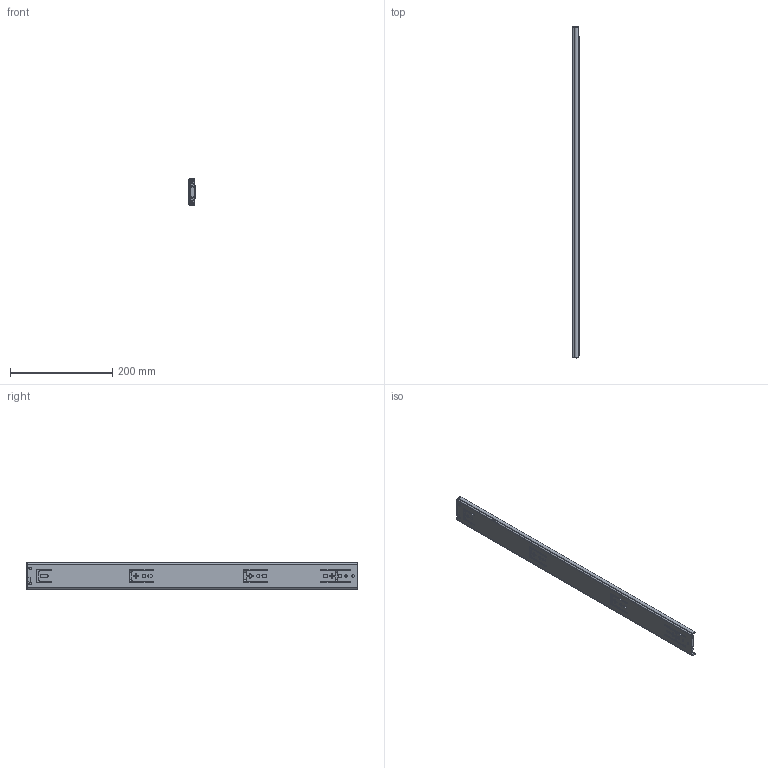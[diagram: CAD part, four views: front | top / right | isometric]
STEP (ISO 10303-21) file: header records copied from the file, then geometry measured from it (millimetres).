
FILE_DESCRIPTION( ( 'Unknown' ), '1' );
FILE_NAME( 'W:/研發專區/T150298_仁智/4.3D圖面/85A01/3D/650/Step/85A01-650(close).stp', 'Unknown', ( 'Unknown' ), ( 'Unknown' ), 'PSStep 14.0', 'Unknown', ' ' );
FILE_SCHEMA( ( 'AUTOMOTIVE_DESIGN { 1 0 10303 214 1 1 1 1 }' ) );
Length unit declared in the file: millimetre
Products named in the file (6): 85A01-O; P10-367-130429; Assem1; 85A01-M; 85A01-I
Assembly tree (5 placements, depth 3):
  Assem1
    85A01-M
    85A01-I
    85A01-O
      P10-367-130429
      85A01-O
Bounding box: 12.7 x 650 x 54.7 mm (x, y, z)
Volume: 232107 mm3; surface area: 218929.3 mm2
Topology: 4 solids, 5 shells, 487 faces, 1421 edges, 944 vertices
Faces by surface type: cylinder 226, plane 220, cone 32, torus 9
Full cylindrical faces by diameter (mm): 4.6 x1, 5 x2, 6.25 x1, 6.4 x4
Entity records: 20354 total; most frequent: CARTESIAN_POINT 3051, DIRECTION 2820, ORIENTED_EDGE 2810, EDGE_CURVE 1405, AXIS2_PLACEMENT_3D 989, VERTEX_POINT 936, LINE 842, VECTOR 842
